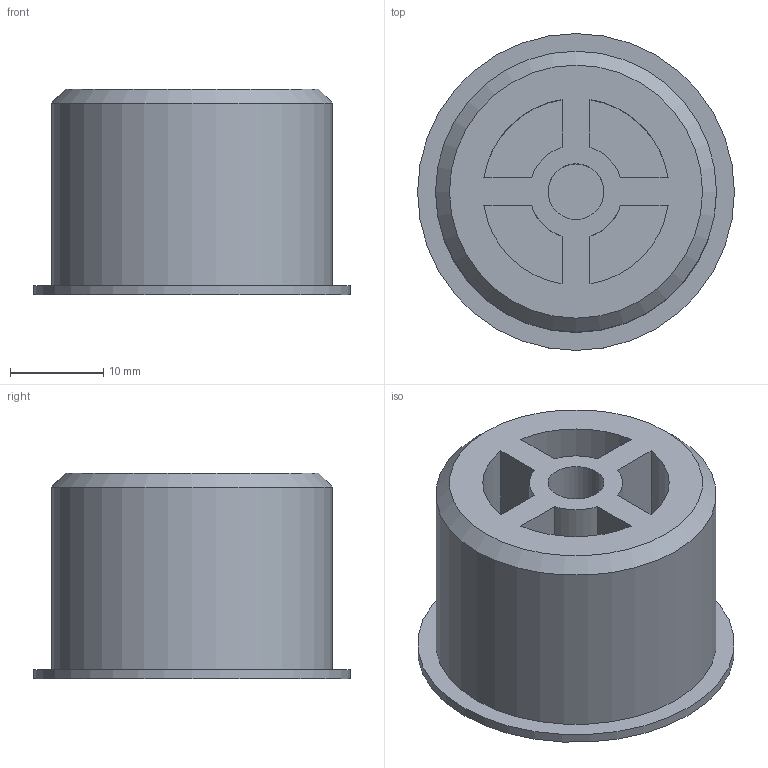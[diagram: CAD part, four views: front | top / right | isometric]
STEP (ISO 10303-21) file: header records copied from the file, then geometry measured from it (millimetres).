
FILE_DESCRIPTION(/* description */ (''),/* implementation_level */ '2;1');
FILE_NAME(/* name */ 'D:\3D печать\Мои проекты\Archy MK 2\STEP\MK3\центральная втулка редуктора для измерений.stp',/* time_stamp */ '2019-07-18T22:04:35+06:00',/* author */ ('Пользователь'),/* organization */ (''),/* preprocessor_version */ 'ST-DEVELOPER v16.5',/* originating_system */ 'Autodesk Inventor 2017',/* authorisation */ '');
FILE_SCHEMA (('AUTOMOTIVE_DESIGN { 1 0 10303 214 3 1 1 }'));
Length unit declared in the file: millimetre
Products named in the file (1): центральная \X2\043204420443
043B043A0430\X0\ редуктора \X2\0434
043B044F\X0\ измерений
Bounding box: 34 x 34 x 22.1 mm (x, y, z)
Volume: 11576.7 mm3; surface area: 6573.9 mm2
Topology: 1 solids, 1 shells, 28 faces, 59 edges, 39 vertices
Faces by surface type: plane 16, cylinder 11, cone 1
Full cylindrical faces by diameter (mm): 6 x1, 30.15 x1, 34 x1
Entity records: 762 total; most frequent: DIRECTION 136, CARTESIAN_POINT 123, ORIENTED_EDGE 110, EDGE_CURVE 55, AXIS2_PLACEMENT_3D 52, VERTEX_POINT 39, EDGE_LOOP 38, LINE 32
